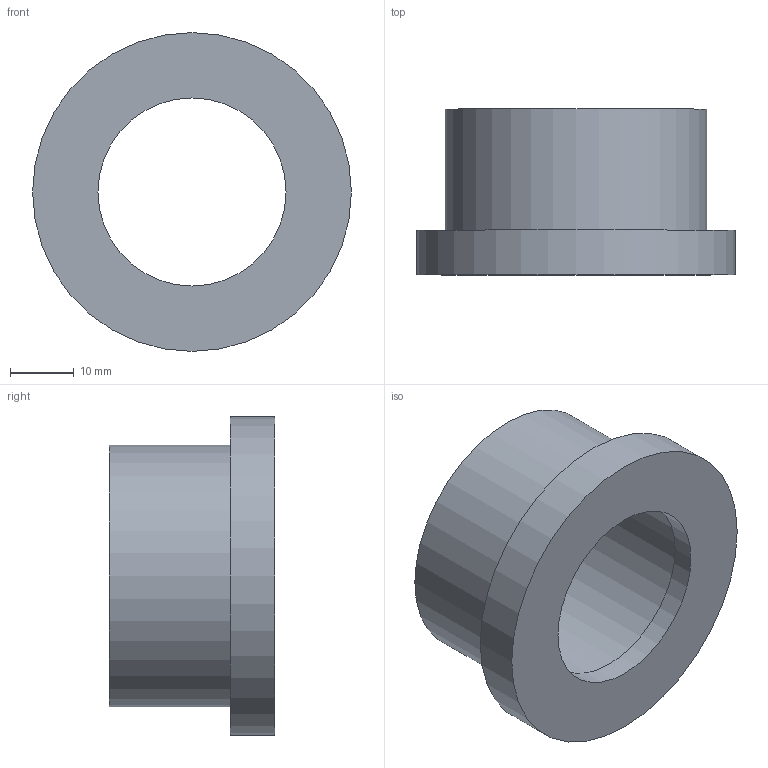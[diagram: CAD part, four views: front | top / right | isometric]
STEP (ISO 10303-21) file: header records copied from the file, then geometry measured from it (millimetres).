
FILE_DESCRIPTION(/* description */ ('PVC collare rigato incollaggio metrico'),/* implementation_level */ '2;1');
FILE_NAME(/* name */ 'C:\Users\POLYPIPE\Desktop\DATASET INVENTOR\LIBRERIA EFFAST\RACCORDI 3DxWEB\RDR\3D_RDRQRD\3D_RDRQRD0320.stp',/* time_stamp */ '2018-01-19T15:25:17+01:00',/* author */ ('POLYPIPE'),/* organization */ ('Polypipe Italia s.r.l.'),/* preprocessor_version */ 'ST-DEVELOPER v16.1',/* originating_system */ 'Autodesk Inventor 2016',/* authorisation */ '');
FILE_SCHEMA (('CONFIG_CONTROL_DESIGN'));
Length unit declared in the file: millimetre
Products named in the file (1): 3D_RDRQRD
Bounding box: 50 x 26 x 50 mm (x, y, z)
Volume: 18341.5 mm3; surface area: 8693.2 mm2
Topology: 1 solids, 1 shells, 8 faces, 12 edges, 8 vertices
Faces by surface type: plane 4, cylinder 4
Full cylindrical faces by diameter (mm): 29.5 x1, 32 x1, 41 x1, 50 x1
Entity records: 192 total; most frequent: DIRECTION 34, CARTESIAN_POINT 25, AXIS2_PLACEMENT_3D 17, EDGE_LOOP 16, ORIENTED_EDGE 16, FACE_BOUND 8, FACE_OUTER_BOUND 8, CIRCLE 8
